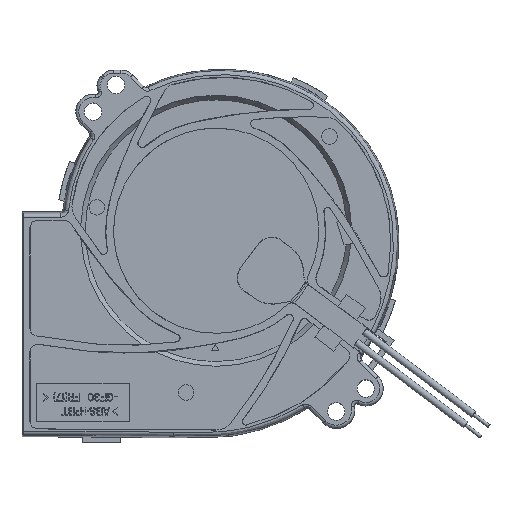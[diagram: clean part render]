
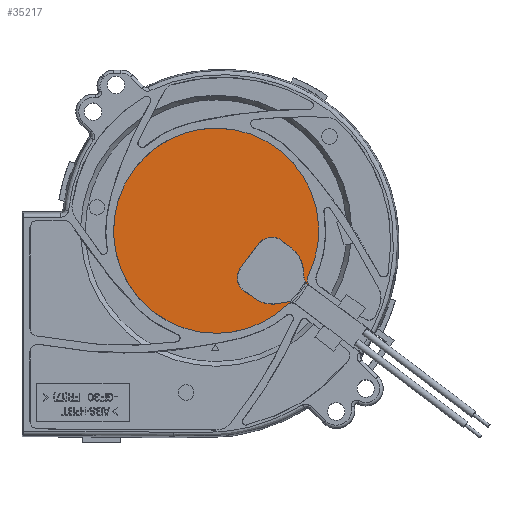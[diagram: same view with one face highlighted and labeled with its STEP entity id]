
A CAD part, top view. The second image highlights one B-rep face of the part: STEP entity #35217.
In plain terms, the highlighted planar face has unit normal (0, 0, 1).
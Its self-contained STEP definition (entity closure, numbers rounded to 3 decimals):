
#7394=CARTESIAN_POINT('',(20.785,-17.561,16.7));
#7405=CARTESIAN_POINT('',(14.554,-9.433,16.7));
#7406=DIRECTION('',(0.,0.,1.));
#7407=DIRECTION('',(-0.59,-0.807,0.));
#7408=AXIS2_PLACEMENT_3D('',#7405,#7406,#7407);
#7410=DIRECTION('',(0.983,0.186,0.));
#7411=VECTOR('',#7410,2.013);
#7412=CARTESIAN_POINT('',(16.043,-17.29,16.7));
#7413=LINE('',#7412,#7411);
#7414=CARTESIAN_POINT('',(18.673,-20.357,16.7));
#7415=DIRECTION('',(0.,0.,-1.));
#7416=DIRECTION('',(-0.186,0.983,0.));
#7417=AXIS2_PLACEMENT_3D('',#7414,#7415,#7416);
#7419=CARTESIAN_POINT('',(19.606,-19.182,16.7));
#7420=DIRECTION('',(0.,0.,1.));
#7421=DIRECTION('',(0.588,0.809,0.));
#7422=AXIS2_PLACEMENT_3D('',#7419,#7420,#7421);
#7424=CARTESIAN_POINT('',(0.03,1.531,16.7));
#7425=DIRECTION('',(0.,0.,-1.));
#7426=DIRECTION('',(0.687,-0.727,0.));
#7427=AXIS2_PLACEMENT_3D('',#7424,#7425,#7426);
#7429=CARTESIAN_POINT('',(0.03,1.531,16.7));
#7430=DIRECTION('',(0.,0.,-1.));
#7431=DIRECTION('',(0.,-1.,0.));
#7432=AXIS2_PLACEMENT_3D('',#7429,#7430,#7431);
#7434=CARTESIAN_POINT('',(0.03,1.531,16.7));
#7435=DIRECTION('',(0.,0.,-1.));
#7436=DIRECTION('',(-0.895,0.446,0.));
#7437=AXIS2_PLACEMENT_3D('',#7434,#7435,#7436);
#7439=CARTESIAN_POINT('',(0.03,1.531,16.7));
#7440=DIRECTION('',(0.,0.,-1.));
#7441=DIRECTION('',(0.,1.,0.));
#7442=AXIS2_PLACEMENT_3D('',#7439,#7440,#7441);
#7444=CARTESIAN_POINT('',(25.544,-11.169,16.7));
#7445=DIRECTION('',(0.,0.,1.));
#7446=DIRECTION('',(-0.895,0.446,0.));
#7447=AXIS2_PLACEMENT_3D('',#7444,#7445,#7446);
#7449=DIRECTION('',(-0.807,0.59,0.));
#7450=VECTOR('',#7449,0.303);
#7451=CARTESIAN_POINT('',(24.361,-12.787,16.7));
#7452=LINE('',#7451,#7450);
#7453=CARTESIAN_POINT('',(26.184,-9.779,16.7));
#7454=DIRECTION('',(0.,0.,-1.));
#7455=DIRECTION('',(-0.59,-0.807,0.));
#7456=AXIS2_PLACEMENT_3D('',#7453,#7454,#7455);
#7458=DIRECTION('',(-0.063,0.998,0.));
#7459=VECTOR('',#7458,1.231);
#7460=CARTESIAN_POINT('',(22.687,-9.999,16.7));
#7461=LINE('',#7460,#7459);
#7462=CARTESIAN_POINT('',(14.629,-9.27,16.7));
#7463=DIRECTION('',(0.,0.,1.));
#7464=DIRECTION('',(0.998,0.063,0.));
#7465=AXIS2_PLACEMENT_3D('',#7462,#7463,#7464);
#7467=DIRECTION('',(-0.798,0.603,0.));
#7468=VECTOR('',#7467,3.158);
#7469=CARTESIAN_POINT('',(19.448,-2.889,16.7));
#7470=LINE('',#7469,#7468);
#7471=CARTESIAN_POINT('',(14.399,-4.335,16.7));
#7472=DIRECTION('',(0.,0.,1.));
#7473=DIRECTION('',(0.603,0.798,0.));
#7474=AXIS2_PLACEMENT_3D('',#7471,#7472,#7473);
#7476=DIRECTION('',(-0.603,-0.798,0.));
#7477=VECTOR('',#7476,7.826);
#7478=CARTESIAN_POINT('',(11.05,-1.806,16.7));
#7479=LINE('',#7478,#7477);
#7480=CARTESIAN_POINT('',(9.683,-10.58,16.7));
#7481=DIRECTION('',(0.,0.,1.));
#7482=DIRECTION('',(-0.798,0.603,0.));
#7483=AXIS2_PLACEMENT_3D('',#7480,#7481,#7482);
#7485=DIRECTION('',(0.807,-0.59,0.));
#7486=VECTOR('',#7485,3.256);
#7487=CARTESIAN_POINT('',(7.207,-13.968,16.7));
#7488=LINE('',#7487,#7486);
#21114=CARTESIAN_POINT('',(24.116,-12.608,16.7));
#21115=VERTEX_POINT('',#21114);
#21116=CARTESIAN_POINT('',(24.361,-12.787,16.7));
#21117=VERTEX_POINT('',#21116);
#21164=VERTEX_POINT('',#7394);
#21285=CARTESIAN_POINT('',(18.23,-17.726,16.7));
#21286=VERTEX_POINT('',#21285);
#21287=CARTESIAN_POINT('',(9.835,-15.889,16.7));
#21288=CARTESIAN_POINT('',(16.043,-17.29,16.7));
#21289=VERTEX_POINT('',#21287);
#21290=VERTEX_POINT('',#21288);
#21291=CARTESIAN_POINT('',(18.021,-16.915,16.7));
#21292=VERTEX_POINT('',#21291);
#21293=CARTESIAN_POINT('',(0.03,-24.965,16.7));
#21294=VERTEX_POINT('',#21293);
#21295=CARTESIAN_POINT('',(-23.69,13.339,16.7));
#21296=VERTEX_POINT('',#21295);
#21297=CARTESIAN_POINT('',(0.03,28.028,16.7));
#21298=VERTEX_POINT('',#21297);
#21299=CARTESIAN_POINT('',(23.75,-10.277,16.7));
#21300=VERTEX_POINT('',#21299);
#21301=CARTESIAN_POINT('',(22.687,-9.999,16.7));
#21302=VERTEX_POINT('',#21301);
#21303=CARTESIAN_POINT('',(22.61,-8.77,16.7));
#21304=VERTEX_POINT('',#21303);
#21305=CARTESIAN_POINT('',(19.448,-2.889,16.7));
#21306=VERTEX_POINT('',#21305);
#21307=CARTESIAN_POINT('',(16.928,-0.986,16.7));
#21308=VERTEX_POINT('',#21307);
#21309=CARTESIAN_POINT('',(11.05,-1.806,16.7));
#21310=VERTEX_POINT('',#21309);
#21311=CARTESIAN_POINT('',(6.334,-8.051,16.7));
#21312=VERTEX_POINT('',#21311);
#21313=CARTESIAN_POINT('',(7.207,-13.968,16.7));
#21314=VERTEX_POINT('',#21313);
#35178=CARTESIAN_POINT('',(0.,-68.,16.7));
#35179=DIRECTION('',(0.,0.,1.));
#35180=DIRECTION('',(0.,-1.,0.));
#35181=AXIS2_PLACEMENT_3D('',#35178,#35179,#35180);
#35182=PLANE('',#35181);
#35184=ORIENTED_EDGE('',*,*,#35183,.T.);
#35186=ORIENTED_EDGE('',*,*,#35185,.T.);
#35187=ORIENTED_EDGE('',*,*,#31417,.T.);
#35188=ORIENTED_EDGE('',*,*,#35168,.T.);
#35190=ORIENTED_EDGE('',*,*,#35189,.T.);
#35192=ORIENTED_EDGE('',*,*,#35191,.T.);
#35194=ORIENTED_EDGE('',*,*,#35193,.T.);
#35196=ORIENTED_EDGE('',*,*,#35195,.T.);
#35198=ORIENTED_EDGE('',*,*,#35197,.T.);
#35199=ORIENTED_EDGE('',*,*,#31476,.T.);
#35200=ORIENTED_EDGE('',*,*,#31380,.T.);
#35202=ORIENTED_EDGE('',*,*,#35201,.T.);
#35204=ORIENTED_EDGE('',*,*,#35203,.T.);
#35206=ORIENTED_EDGE('',*,*,#35205,.T.);
#35208=ORIENTED_EDGE('',*,*,#35207,.T.);
#35210=ORIENTED_EDGE('',*,*,#35209,.T.);
#35212=ORIENTED_EDGE('',*,*,#35211,.T.);
#35214=ORIENTED_EDGE('',*,*,#35213,.T.);
#35215=EDGE_LOOP('',(#35184,#35186,#35187,#35188,#35190,#35192,#35194,#35196,
#35198,#35199,#35200,#35202,#35204,#35206,#35208,#35210,#35212,#35214));
#35216=FACE_OUTER_BOUND('',#35215,.F.);
#35217=ADVANCED_FACE('',(#35216),#35182,.T.);
#7409=CIRCLE('',#7408,7.997);
#7418=CIRCLE('',#7417,3.503);
#7423=CIRCLE('',#7422,2.003);
#7428=CIRCLE('',#7427,26.497);
#7433=CIRCLE('',#7432,26.497);
#7438=CIRCLE('',#7437,26.497);
#7443=CIRCLE('',#7442,26.497);
#7448=CIRCLE('',#7447,2.003);
#7457=CIRCLE('',#7456,3.503);
#7466=CIRCLE('',#7465,7.997);
#7475=CIRCLE('',#7474,4.197);
#7484=CIRCLE('',#7483,4.197);
#31380=EDGE_CURVE('',#21115,#21302,#7457,.T.);
#31417=EDGE_CURVE('',#21292,#21164,#7418,.T.);
#31476=EDGE_CURVE('',#21117,#21115,#7452,.T.);
#35168=EDGE_CURVE('',#21164,#21286,#7423,.T.);
#35183=EDGE_CURVE('',#21289,#21290,#7409,.T.);
#35185=EDGE_CURVE('',#21290,#21292,#7413,.T.);
#35189=EDGE_CURVE('',#21286,#21294,#7428,.T.);
#35191=EDGE_CURVE('',#21294,#21296,#7433,.T.);
#35193=EDGE_CURVE('',#21296,#21298,#7438,.T.);
#35195=EDGE_CURVE('',#21298,#21300,#7443,.T.);
#35197=EDGE_CURVE('',#21300,#21117,#7448,.T.);
#35201=EDGE_CURVE('',#21302,#21304,#7461,.T.);
#35203=EDGE_CURVE('',#21304,#21306,#7466,.T.);
#35205=EDGE_CURVE('',#21306,#21308,#7470,.T.);
#35207=EDGE_CURVE('',#21308,#21310,#7475,.T.);
#35209=EDGE_CURVE('',#21310,#21312,#7479,.T.);
#35211=EDGE_CURVE('',#21312,#21314,#7484,.T.);
#35213=EDGE_CURVE('',#21314,#21289,#7488,.T.);
